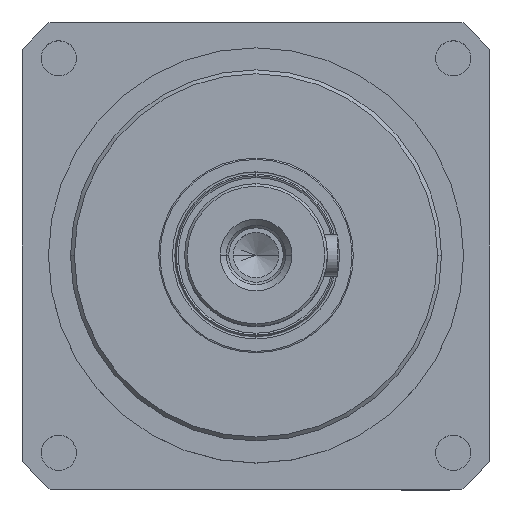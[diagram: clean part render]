
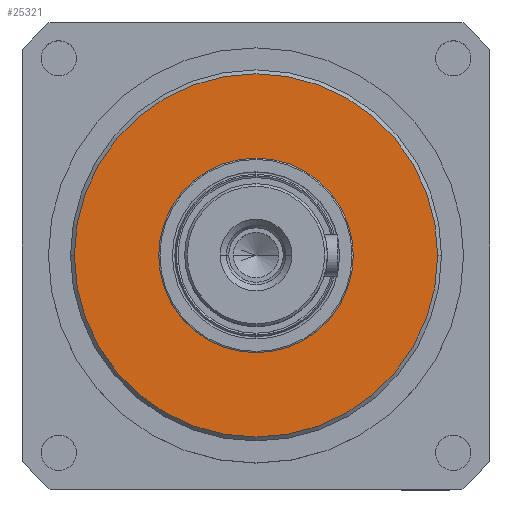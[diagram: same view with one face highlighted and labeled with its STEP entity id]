
A CAD part, top view. The second image highlights one B-rep face of the part: STEP entity #25321.
In plain terms, the highlighted planar face has unit normal (0, 0, 1).
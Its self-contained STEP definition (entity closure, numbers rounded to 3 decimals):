
#2470 = CARTESIAN_POINT ( 'NONE',  ( 37.5, 0., 0. ) ) ;
#2738 = FACE_OUTER_BOUND ( 'NONE', #9877, .T. ) ;
#3494 = AXIS2_PLACEMENT_3D ( 'NONE', #24503, #24492, #24446 ) ;
#6055 = AXIS2_PLACEMENT_3D ( 'NONE', #13116, #12478, #12381 ) ;
#7888 = CARTESIAN_POINT ( 'NONE',  ( 0., 0., 0. ) ) ;
#8159 = DIRECTION ( 'NONE',  ( 0., 0., 1. ) ) ;
#9682 = DIRECTION ( 'NONE',  ( 1., 0., 0. ) ) ;
#9877 = EDGE_LOOP ( 'NONE', ( #31166, #36758 ) ) ;
#10174 = EDGE_CURVE ( 'NONE', #10299, #19263, #15370, .T. ) ;
#10243 = EDGE_CURVE ( 'NONE', #27707, #33460, #16415, .T. ) ;
#10299 = VERTEX_POINT ( 'NONE', #2470 ) ;
#10638 = FACE_BOUND ( 'NONE', #20092, .T. ) ;
#11137 = AXIS2_PLACEMENT_3D ( 'NONE', #7888, #8159, #9682 ) ;
#12381 = DIRECTION ( 'NONE',  ( -1., 0., 0. ) ) ;
#12478 = DIRECTION ( 'NONE',  ( 0., 0., -1. ) ) ;
#12618 = PLANE ( 'NONE',  #6055 ) ;
#13116 = CARTESIAN_POINT ( 'NONE',  ( 0., 70., 0. ) ) ;
#13129 = EDGE_CURVE ( 'NONE', #33460, #27707, #16801, .T. ) ;
#14277 = CARTESIAN_POINT ( 'NONE',  ( -37.5, 0., 0. ) ) ;
#15370 = CIRCLE ( 'NONE', #11137, 37.5 ) ;
#16415 = CIRCLE ( 'NONE', #17468, 70. ) ;
#16801 = CIRCLE ( 'NONE', #3494, 70. ) ;
#17105 = CARTESIAN_POINT ( 'NONE',  ( 70., 0., 0. ) ) ;
#17159 = CARTESIAN_POINT ( 'NONE',  ( 0., 0., 0. ) ) ;
#17468 = AXIS2_PLACEMENT_3D ( 'NONE', #30323, #17686, #38376 ) ;
#17686 = DIRECTION ( 'NONE',  ( 0., 0., -1. ) ) ;
#18957 = CIRCLE ( 'NONE', #21891, 37.5 ) ;
#19263 = VERTEX_POINT ( 'NONE', #14277 ) ;
#20092 = EDGE_LOOP ( 'NONE', ( #37763, #24283 ) ) ;
#20313 = DIRECTION ( 'NONE',  ( 1., 0., 0. ) ) ;
#21891 = AXIS2_PLACEMENT_3D ( 'NONE', #17159, #38421, #20313 ) ;
#24283 = ORIENTED_EDGE ( 'NONE', *, *, #27139, .F. ) ;
#24446 = DIRECTION ( 'NONE',  ( -1., 0., 0. ) ) ;
#24492 = DIRECTION ( 'NONE',  ( 0., 0., -1. ) ) ;
#24503 = CARTESIAN_POINT ( 'NONE',  ( 0., 0., 0. ) ) ;
#25321 = ADVANCED_FACE ( 'b', ( #10638, #2738 ), #12618, .F. ) ;
#27139 = EDGE_CURVE ( 'NONE', #19263, #10299, #18957, .T. ) ;
#27707 = VERTEX_POINT ( 'NONE', #17105 ) ;
#29006 = CARTESIAN_POINT ( 'NONE',  ( -70., 0., 0. ) ) ;
#30323 = CARTESIAN_POINT ( 'NONE',  ( 0., 0., 0. ) ) ;
#31166 = ORIENTED_EDGE ( 'NONE', *, *, #13129, .F. ) ;
#33460 = VERTEX_POINT ( 'NONE', #29006 ) ;
#36758 = ORIENTED_EDGE ( 'NONE', *, *, #10243, .F. ) ;
#37763 = ORIENTED_EDGE ( 'NONE', *, *, #10174, .F. ) ;
#38376 = DIRECTION ( 'NONE',  ( -1., 0., 0. ) ) ;
#38421 = DIRECTION ( 'NONE',  ( 0., 0., 1. ) ) ;
